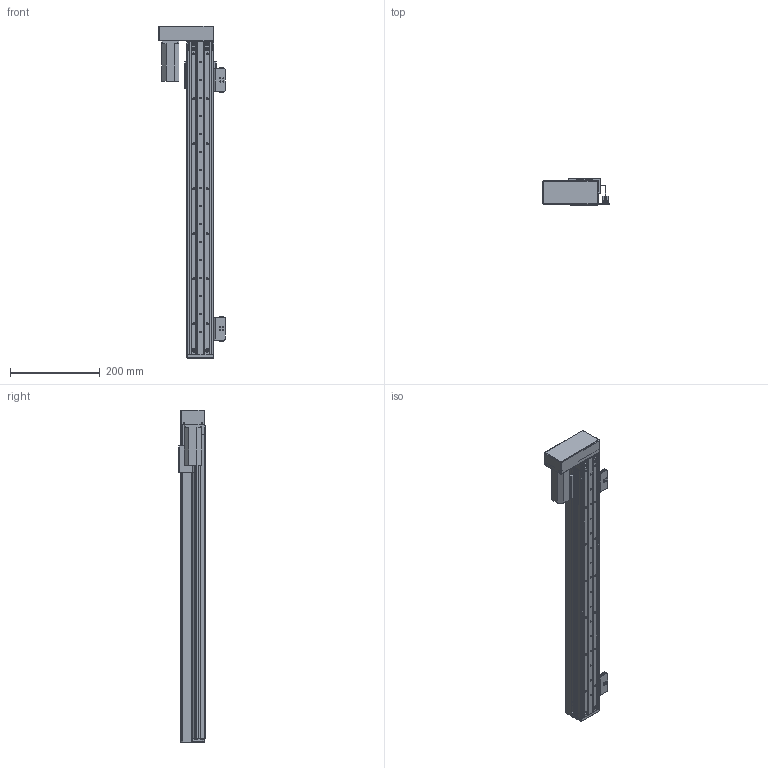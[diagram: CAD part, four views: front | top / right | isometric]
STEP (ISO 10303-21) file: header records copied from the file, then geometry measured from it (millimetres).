
FILE_DESCRIPTION (( 'STEP AP203' ), '1' );
FILE_NAME ('RY60FB-L1210-300-LK.SLDASM_550.step', '2021-02-23T01:00:57', ( '盈信电脑' ), ( '东莞市道滘镇水果街19号' ), 'SwSTEP 2.0', 'SolidWorks 2012', '' );
FILE_SCHEMA (( 'CONFIG_CONTROL_DESIGN' ));
Length unit declared in the file: millimetre
Products named in the file (14): 侂狟100W; RY60FB-蛌殏奻裔-300-LK_550; 滅袉蝶18-10; RY60FB綴裔啣; RY60FB-蛌殏菁釱-300-LK_550; RY60FB-臏賑輸; RY60FB-L1210-300-LK.SLDASM_550; RY60FB-674嫖萇耀輸; RY80俋离覜茼え; RY60FB-感应器674光电安装座; RY60FB-蛌殏萇儂欶; 覜茼ん674; RY60FB转折电机端支撑座; RY60FB-左右折电机安装板
Assembly tree (18 placements, depth 3):
  RY60FB-L1210-300-LK.SLDASM_550
    RY60FB-蛌殏菁釱-300-LK_550
    RY60FB-臏賑輸
    滅袉蝶18-10  x4
    RY60FB-蛌殏奻裔-300-LK_550
    侂狟100W
    RY60FB綴裔啣
    RY60FB转折电机端支撑座
    RY60FB-左右折电机安装板
    RY60FB-蛌殏萇儂欶
    RY60FB-674嫖萇耀輸  x2
      RY60FB-感应器674光电安装座
      覜茼ん674
    RY80俋离覜茼え
Bounding box: 147.75 x 58.5 x 738 mm (x, y, z)
Volume: 959395.4 mm3; surface area: 534494 mm2
Topology: 19 solids, 19 shells, 1169 faces, 3182 edges, 2030 vertices
Faces by surface type: plane 591, cylinder 473, cone 97, bspline 8
Entity records: 31642 total; most frequent: CARTESIAN_POINT 6174, DIRECTION 5032, ORIENTED_EDGE 4916, EDGE_CURVE 2458, AXIS2_PLACEMENT_3D 1762, VERTEX_POINT 1592, LINE 1508, VECTOR 1508
